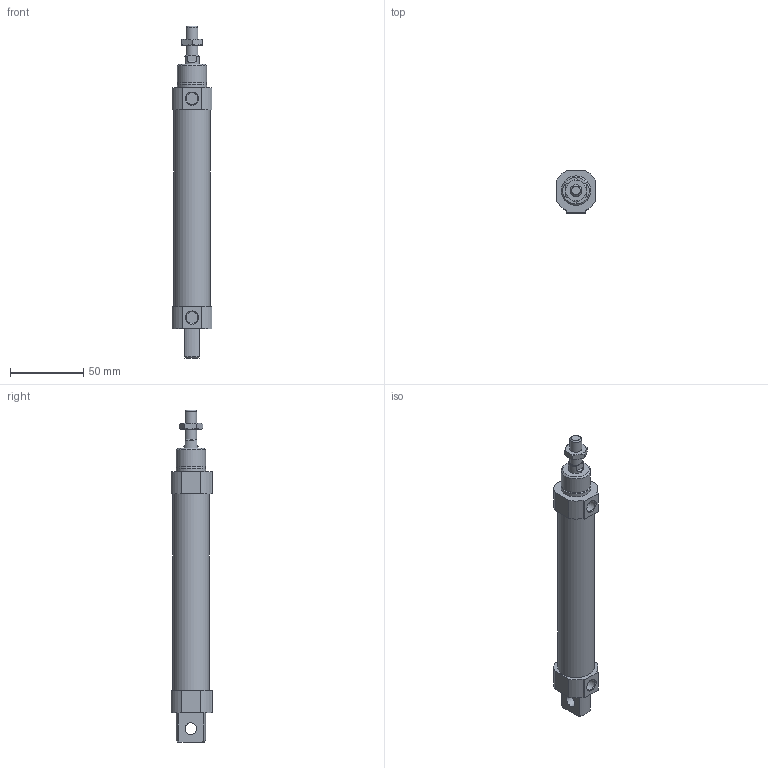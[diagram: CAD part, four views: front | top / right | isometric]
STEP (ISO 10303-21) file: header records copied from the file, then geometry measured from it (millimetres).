
FILE_DESCRIPTION((''),'2;1');
FILE_NAME('I:\3D電子目錄\氣缸\FDA\FDA\FDA\FDA20\FDA20x100.stp','2007-10-16T09:52:43',('66-2f-008'),(''),'Autodesk Inventor 11','Autodesk Inventor 11','');
FILE_SCHEMA(('AUTOMOTIVE_DESIGN { 1 0 10303 214 1 1 1 1 }'));
Length unit declared in the file: millimetre
Products named in the file (1): FDA20
Bounding box: 27 x 28.5 x 226 mm (x, y, z)
Volume: 95358.8 mm3; surface area: 18712.7 mm2
Topology: 1 solids, 1 shells, 77 faces, 178 edges, 112 vertices
Faces by surface type: plane 37, cone 20, cylinder 19, torus 1
Full cylindrical faces by diameter (mm): 8 x5, 10 x1, 20 x2, 25 x1
Entity records: 2081 total; most frequent: CARTESIAN_POINT 414, DIRECTION 348, ORIENTED_EDGE 324, EDGE_CURVE 162, AXIS2_PLACEMENT_3D 140, VERTEX_POINT 110, EDGE_LOOP 102, FACE_OUTER_BOUND 77
